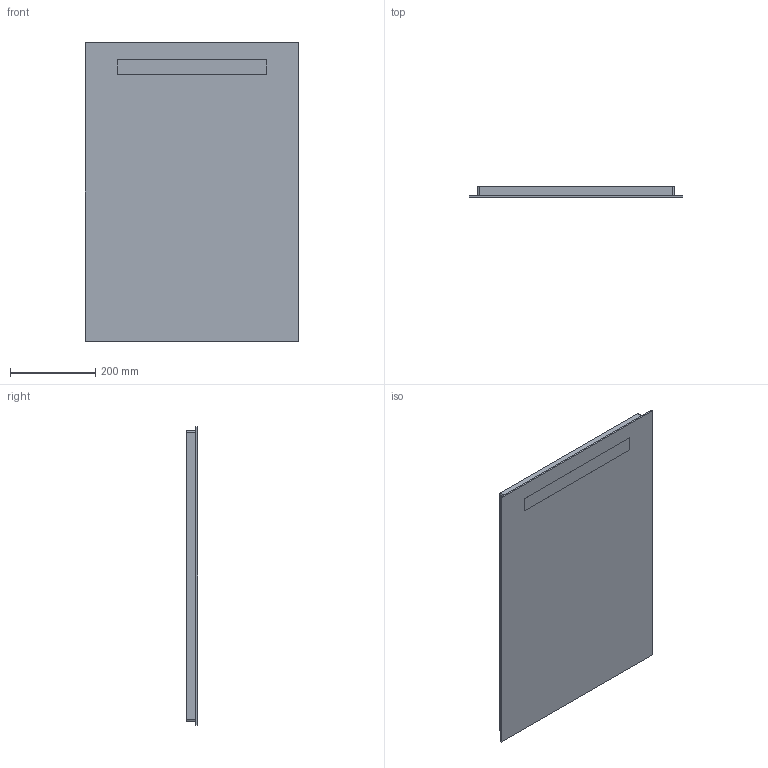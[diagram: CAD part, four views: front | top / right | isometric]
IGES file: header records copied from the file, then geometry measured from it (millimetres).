
Global section: file name: 502804; native system: Autodesk Inventor 2021; preprocessor: unknown; author: JANAN; date: 20221202.150927; units: millimetre
Bounding box: 500 x 26 x 700 mm (x, y, z)
Volume: 8278193.9 mm3; surface area: 1386313.9 mm2
Topology: 2 solids, 2 shells, 29 faces, 68 edges, 48 vertices
Faces by surface type: bspline 29
